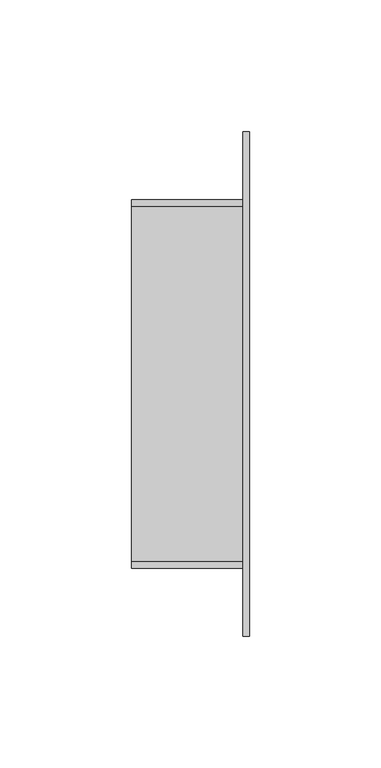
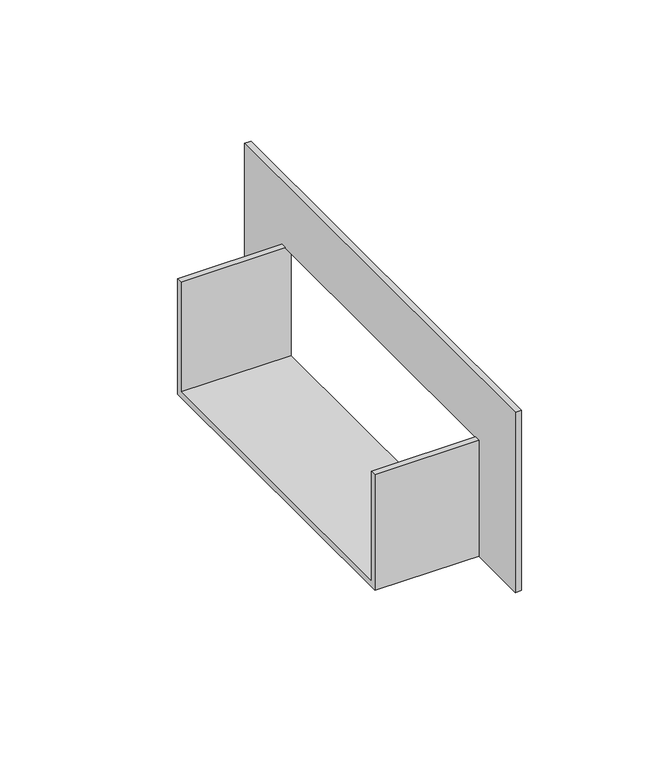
"""IFC4 building model written with IfcOpenShell, lengths in millimetres: cable carrier fitting geometry, КНС_ВводВСтену_ILF_DKC : Белый."""

from ifc_helpers import new_model, si_unit, frame, origin, place, context, project, spatial, polyline, outline, extrude, source, transform, mapped, element, save


def cable_carrier_fitting_30d2fbf1(model_context):
    return source(origin(), model_context, "Body", "SweptSolid", [
        extrude(outline(polyline([(70.0, -25.0), (-70.0, -25.0), (-70.0, 25.0), (-67.5, 25.0), (-67.5, -22.5), (67.5, -22.5), (67.5, 25.0), (70.0, 25.0), (70.0, -25.0)])), frame((-45.0, 0.0, 0.0), z_axis=(1.0, 0.0, 0.0), x_axis=(0.0, 1.0, 0.0)), (0.0, 0.0, 1.0), 45.0),
        extrude(outline(polyline([(70.0, -25.0), (70.0, 25.0), (-70.0, 25.0), (-70.0, -25.0), (-96.0, -25.0), (-96.0, 53.0), (96.0, 53.0), (96.0, -25.0), (70.0, -25.0)])), frame((-2.5, 0.0, 0.0), z_axis=(1.0, 0.0, 0.0), x_axis=(0.0, 1.0, 0.0)), (0.0, 0.0, 1.0), 2.5),
    ])


if __name__ == "__main__":
    model = new_model("IFC4")
    model_context = context("Model", 3, world=origin())
    ifc_project = project(units=[si_unit("LENGTHUNIT", "METRE", prefix="MILLI")], contexts=[model_context])
    site = spatial("IfcSite", under=ifc_project)
    building = spatial("IfcBuilding", under=site)
    placement = place(None, origin())
    cable_carrier_fitting_shape = cable_carrier_fitting_30d2fbf1(model_context)
    element("IfcCableCarrierFitting", 1, ObjectType="КНС_ВводВСтену_ILF_DKC : Белый", at=placement, inside=building, context=model_context, shape_type="MappedRepresentation", body=[
        mapped(cable_carrier_fitting_shape, transform((0.0, 0.0, 0.0), x_axis=(1.0, 0.0, 0.0), y_axis=(0.0, 1.0, 0.0), z_axis=(0.0, 0.0, 1.0))),
    ])
    save(model, "model.ifc")
